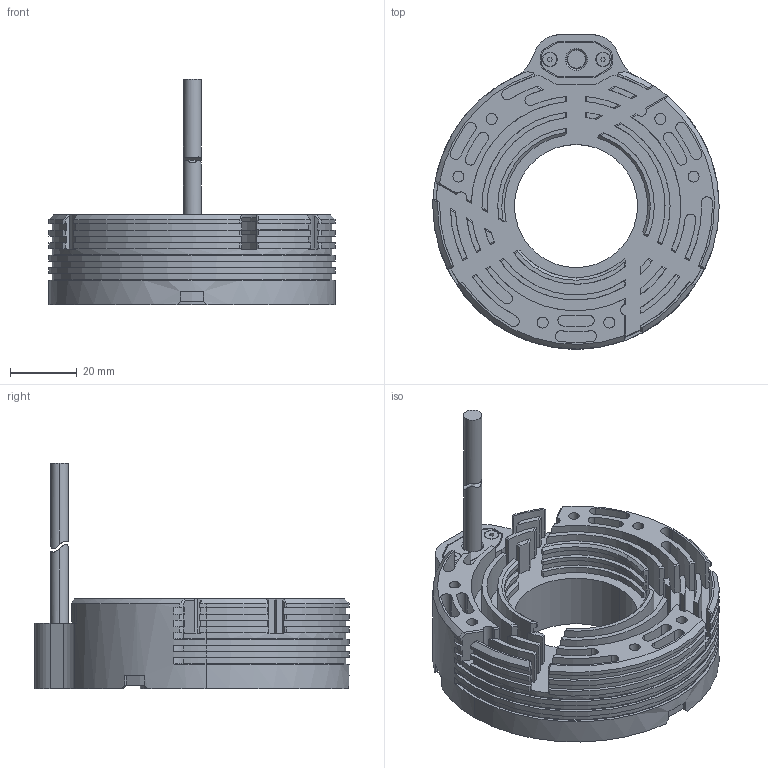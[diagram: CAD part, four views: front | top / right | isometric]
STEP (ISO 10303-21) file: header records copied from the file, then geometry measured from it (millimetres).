
FILE_DESCRIPTION (( 'STEP AP214' ), '1' );
FILE_NAME ('M-TRING-EC-xxx-xx-DO_CLIENT.STEP', '2026-06-04T14:20:26', ( '' ), ( '' ), 'SwSTEP 2.0', 'SolidWorks 2025', '' );
FILE_SCHEMA (( 'AUTOMOTIVE_DESIGN' ));
Length unit declared in the file: millimetre
Products named in the file (1): M-TRING-EC-xxx-xx-DO_CLIENT
Bounding box: 86 x 94.44 x 67.75 mm (x, y, z)
Volume: 95876.8 mm3; surface area: 38510.1 mm2
Topology: 2 solids, 5 shells, 642 faces, 1734 edges, 1143 vertices
Faces by surface type: plane 306, cylinder 252, bspline 71, cone 13
Entity records: 22290 total; most frequent: CARTESIAN_POINT 6479, ORIENTED_EDGE 3468, DIRECTION 3155, EDGE_CURVE 1734, VERTEX_POINT 1143, AXIS2_PLACEMENT_3D 1140, LINE 875, VECTOR 875
